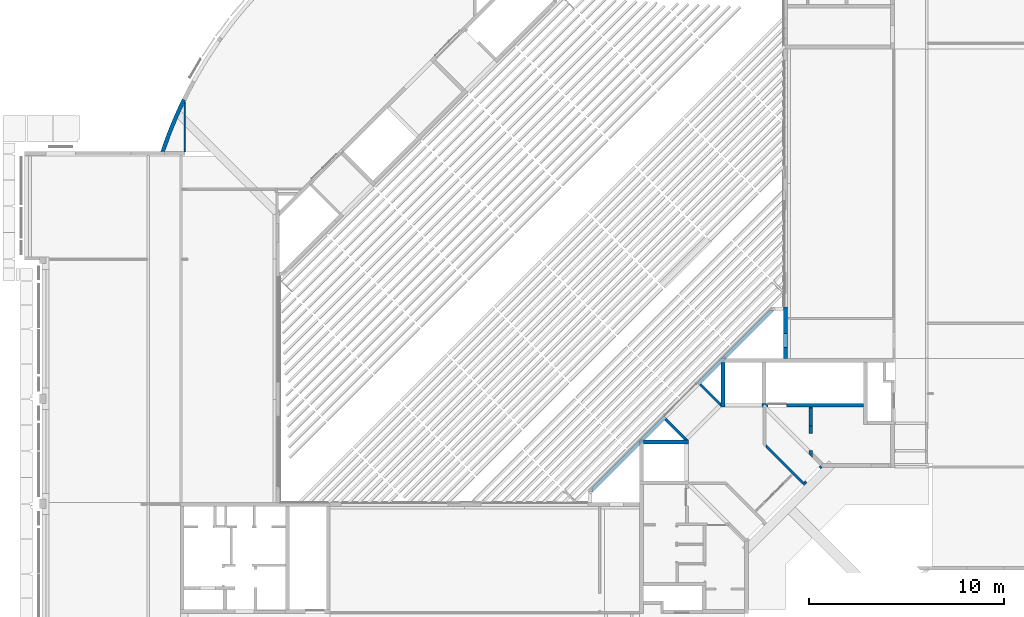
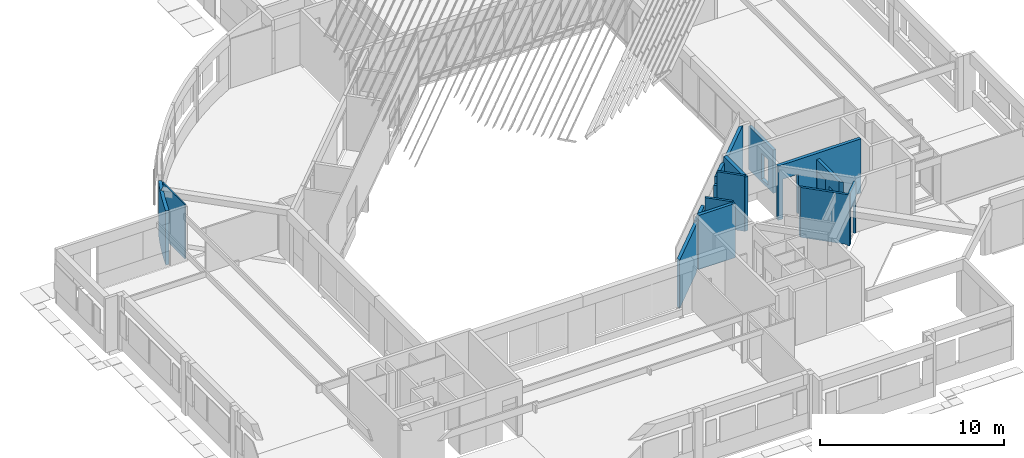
# One storey, part 35 of 37: 13 walls.
"""IFC4X3_ADD2 building model written with IfcOpenShell, lengths in millimetres."""

from ifc_helpers import new_model, si_unit, direction, frame, origin_with_axes, place, context, subcontext, project, spatial, polygons, source, transform, mapped, material, type_object, type_shapes, element, save


model = new_model("IFC4X3_ADD2")

# Units and contexts
model_context = context("Model", 3, precision=1e-05, world=origin_with_axes(), true_north=direction((0.0, 1.0)))
body_context = subcontext(model_context, "Body", "Model", "MODEL_VIEW")
ifc_project = project(units=[si_unit("LENGTHUNIT", "METRE", prefix="MILLI"), si_unit("AREAUNIT", "SQUARE_METRE"), si_unit("VOLUMEUNIT", "CUBIC_METRE"), si_unit("PLANEANGLEUNIT", "RADIAN"), si_unit("TIMEUNIT", "SECOND"), si_unit("MASSUNIT", "GRAM")], contexts=[model_context])

# Site, building, storey
site_placement = place(None, origin_with_axes())
site = spatial("IfcSite", under=ifc_project, at=site_placement, Name="Site", CompositionType="ELEMENT")
building_placement = place(site_placement, origin_with_axes())
building = spatial("IfcBuilding", under=site, at=building_placement, Name="IFC Building Story")
storey_placement = place(building_placement, frame((0.0, 0.0, 3600.0), z_axis=(0.0, 0.0, 1.0), x_axis=(1.0, 0.0, 0.0)))
storey = spatial("IfcBuildingStorey", under=building, at=storey_placement, Name="010", Elevation=3600.0)

# Walls
ifc_material = material(Name="BB_Metselwerk_Betonsteen")
wall_type_1 = type_object("IfcWallType", Name="Basic Wall_BB_03.09.24#03_Wand uit metselwerk_ 190 mm3", PredefinedType="NOTDEFINED")
shared_shape_1 = source(origin_with_axes(), body_context, "Body", "Tessellation", [
    polygons([(1.08286712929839e-12, -95.0, 1.08286712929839e-12), (3393.24750028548, -95.0000000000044, 0.0), (3583.48263930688, -95.0000000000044, 1.08286712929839e-12), (3583.48263930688, -95.0, 120.0), (5436.03384096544, -95.0, 120.0), (5436.03384096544, -95.0000000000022, 450.000000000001), (5436.03384096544, -95.0, 2869.99999997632), (5231.88696207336, -95.0, 2869.99999997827), (5231.88696207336, -95.0, 3320.0), (3866.3253517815, -95.0, 3320.0), (3866.3253517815, -95.0, 3200.00000000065), (3471.06131010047, -95.0000000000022, 3200.00000000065), (1.08286712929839e-12, -95.0, 3200.00000000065), (190.000000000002, 95.0000000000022, 1.08286712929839e-12), (3393.24750028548, 95.0000000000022, 0.0), (3393.48263930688, 95.0, 1.08286712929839e-12), (3676.3253517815, 95.0, 3200.00000000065), (3471.06131010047, 95.0, 3200.00000000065), (189.999999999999, 94.999999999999, 3200.00000000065), (5436.03384096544, 95.0, 120.0), (5436.03384096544, 95.0, 450.0), (5436.03384096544, 94.9999999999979, 2869.99999997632), (5231.88696207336, 94.9999999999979, 2869.99999997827), (5231.88696207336, 94.9999999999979, 3320.0), (3676.3253517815, 95.0, 3320.0), (3393.48263930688, 95.0, 120.0)], [[[11, 12, 8]], [[8, 9, 10]], [[8, 10, 11]], [[12, 4, 6]], [[12, 6, 8]], [[6, 7, 8]], [[4, 5, 6]], [[12, 2, 4]], [[2, 3, 4]], [[12, 13, 1]], [[12, 1, 2]], [[2, 1, 14]], [[2, 14, 15]], [[15, 16, 3]], [[15, 3, 2]], [[12, 11, 17]], [[12, 17, 18]], [[18, 19, 13]], [[18, 13, 12]], [[6, 5, 20]], [[6, 20, 21]], [[21, 22, 7]], [[21, 7, 6]], [[8, 7, 22, 23]], [[9, 8, 23, 24]], [[10, 9, 24, 25]], [[1, 13, 19, 14]], [[11, 10, 25, 17]], [[5, 4, 26, 20]], [[4, 3, 16, 26]], [[23, 22, 21]], [[21, 17, 23]], [[17, 25, 24]], [[17, 24, 23]], [[21, 20, 26]], [[21, 26, 18]], [[21, 18, 17]], [[15, 14, 26]], [[26, 16, 15]], [[14, 19, 18]], [[14, 18, 26]]]),
    polygons([(13080.8455415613, 94.9999999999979, 3200.00000000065), (13080.8455415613, 94.9999999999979, 1.08286712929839e-12), (9780.82239419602, 94.9999999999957, 0.0), (9594.80911031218, 94.9999999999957, 1.08286712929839e-12), (9594.80911031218, 94.9999999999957, 120.0), (7831.88696207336, 95.0, 119.999999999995), (7831.88696207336, 94.9999999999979, 450.0), (7831.88696207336, 95.0, 2869.99999997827), (8028.33713913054, 95.0000000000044, 2869.99999997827), (8028.33713913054, 95.0000000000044, 3320.00000000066), (9311.96639783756, 94.9999999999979, 3320.00000000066), (9311.96639783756, 94.9999999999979, 3200.00000000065), (9790.7976733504, 95.0000000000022, 3200.00000000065), (7831.88696207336, -95.0000000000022, 119.999999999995), (7831.88696207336, -95.0000000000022, 450.000000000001), (7831.88696207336, -95.0000000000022, 2869.99999997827), (13270.8455415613, -95.0000000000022, 1.08286712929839e-12), (9784.80911031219, -95.0000000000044, 1.08286712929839e-12), (9780.82239419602, -91.0132838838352, 0.0), (9501.96639783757, -95.0000000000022, 3200.00000000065), (9790.79767335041, -95.0000000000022, 3200.00000000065), (13270.8455415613, -95.0000000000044, 3200.00000000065), (8028.33713913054, -95.0000000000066, 3320.00000000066), (9501.96639783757, -95.0000000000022, 3320.00000000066), (8028.33713913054, -95.0000000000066, 2869.99999997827), (9784.80911031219, -95.0000000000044, 120.0), (9780.82239419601, -95.0000000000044, 120.0), (9780.82239419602, -91.0132838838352, 120.0)], [[[12, 13, 9]], [[9, 10, 12]], [[10, 11, 12]], [[13, 5, 7]], [[13, 7, 9]], [[7, 8, 9]], [[5, 6, 7]], [[13, 3, 5]], [[3, 4, 5]], [[13, 1, 2]], [[13, 2, 3]], [[15, 16, 8]], [[15, 8, 7]], [[7, 6, 14]], [[7, 14, 15]], [[19, 4, 3]], [[3, 2, 17]], [[3, 17, 18]], [[3, 18, 19]], [[21, 22, 1]], [[21, 1, 13]], [[13, 12, 20]], [[13, 20, 21]], [[23, 24, 11, 10]], [[25, 23, 10, 9]], [[16, 25, 9, 8]], [[22, 17, 2, 1]], [[24, 20, 12, 11]], [[27, 14, 6]], [[27, 6, 5]], [[27, 5, 28]], [[28, 26, 27]], [[28, 5, 4]], [[28, 4, 19]], [[19, 18, 26]], [[19, 26, 28]], [[25, 16, 15]], [[15, 20, 25]], [[20, 24, 23]], [[20, 23, 25]], [[26, 18, 21]], [[21, 27, 26]], [[21, 20, 15]], [[21, 15, 14]], [[21, 14, 27]], [[18, 17, 22]], [[18, 22, 21]]]),
])
type_shapes(wall_type_1, [shared_shape_1])
wall_1_placement = place(storey_placement, frame((-22622.0277793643, 13248.2702696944, -200.0), z_axis=(0.0, 0.0, 1.0), x_axis=(0.7071067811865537, 0.7071067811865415, 0.0)))
element("IfcWall", 1, at=wall_1_placement, inside=storey, type_object=wall_type_1, material=ifc_material, Name="Basic Wall:BB_03.09.24#03_Wand uit metselwerk, 190 mm", ObjectType="Basic Wall:BB_03.09.24#03_Wand uit metselwerk, 190 mm", PredefinedType="SOLIDWALL", context=body_context, shape_type="MappedRepresentation", body=[
    mapped(shared_shape_1, transform((0.0, 0.0, 0.0))),
])
wall_type_2 = type_object("IfcWallType", Name="Basic Wall_BB_10.01.62#01_Voorzetwand gipskarton_MS75 _ 50.25_ 75 mm15", PredefinedType="NOTDEFINED")
shared_shape_2 = source(origin_with_axes(), body_context, "Body", "Tessellation", [
    polygons([(2544.40572328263, 25.000000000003, 0.0), (16.3707426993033, 25.000000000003, 0.0), (0.0, 37.5000000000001, 0.0), (2544.40572328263, 37.5000000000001, 0.0), (0.0, 37.5000000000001, 200.0), (16.3707426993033, 25.000000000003, 200.0), (16.3707426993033, 25.000000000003, 2840.0), (4.33146851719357e-12, 37.5000000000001, 2840.0), (2544.40572328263, 25.000000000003, 200.0), (2544.40572328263, 37.5000000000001, 200.0), (2544.40572328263, 37.5000000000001, 2840.0), (2544.40572328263, 37.5000000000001, 3200.0), (2544.40572328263, 37.5000000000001, 3600.0), (2544.40572328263, 25.000000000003, 3600.0), (2544.40572328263, 25.000000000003, 3200.0), (2544.40572328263, 25.000000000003, 2840.0), (25.842365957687, 25.000000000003, 2840.0), (25.8423659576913, 25.000000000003, 3600.0), (25.842365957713, 24.9999999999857, 3519.1235751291), (25.8423659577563, 24.9999999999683, 3400.0), (25.8423659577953, 24.999999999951, 3280.8764248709), (25.8423659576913, 25.000000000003, 3200.0), (25.8423659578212, 24.9999999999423, 3020.0), (25.8423659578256, 24.9999999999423, 2920.8764248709), (1.42938461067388e-10, 37.4999999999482, 3001.75284974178), (1.51601398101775e-10, 37.4999999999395, 3119.12357512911), (3.0320279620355e-11, 37.5000000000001, 3200.0), (2.38230768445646e-10, 37.4999999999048, 3361.75284974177), (2.12241957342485e-10, 37.4999999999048, 3438.24715025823), (3.0320279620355e-11, 37.5000000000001, 3600.0), (12.9191418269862, 31.2457801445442, 2840.0), (12.9191487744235, 31.245776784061, 3600.0), (12.3589870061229, 31.5167378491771, 3060.43821243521), (12.3283092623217, 31.5315778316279, 2950.16977243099), (12.9191418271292, 31.2457801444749, 3200.0), (12.4661036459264, 31.4649219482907, 3399.99999999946), (10.2204866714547, 32.551351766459, 3299.65014050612), (10.2204869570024, 32.5513516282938, 3500.34986530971)], [[[1, 2, 3, 4]], [[5, 3, 2]], [[5, 2, 6]], [[6, 7, 8]], [[6, 8, 5]], [[9, 1, 4]], [[9, 4, 10]], [[12, 13, 14]], [[12, 14, 15]], [[15, 16, 11]], [[15, 11, 12]], [[16, 9, 10]], [[16, 10, 11]], [[6, 2, 17]], [[17, 7, 6]], [[21, 22, 15]], [[15, 14, 20]], [[15, 20, 21]], [[14, 19, 20]], [[14, 18, 19]], [[24, 17, 16]], [[16, 15, 23]], [[16, 23, 24]], [[15, 22, 23]], [[17, 2, 9]], [[17, 9, 16]], [[2, 1, 9]], [[10, 4, 3]], [[10, 3, 5]], [[29, 30, 13]], [[13, 12, 28]], [[13, 28, 29]], [[12, 27, 28]], [[12, 26, 27]], [[12, 11, 25]], [[12, 25, 26]], [[11, 8, 25]], [[11, 10, 5]], [[11, 5, 8]], [[31, 8, 7, 17]], [[32, 18, 14]], [[32, 14, 13]], [[13, 30, 32]], [[33, 34, 24, 23]], [[33, 35, 26]], [[33, 26, 25]], [[35, 33, 22]], [[31, 17, 24]], [[35, 22, 21]], [[19, 18, 32]], [[33, 23, 22]], [[31, 34, 8]], [[34, 33, 25, 8]], [[35, 27, 26]], [[24, 34, 31]], [[21, 36, 37]], [[20, 19, 36, 21]], [[36, 29, 28]], [[19, 32, 38]], [[27, 35, 37]], [[27, 37, 28]], [[30, 29, 38]], [[36, 28, 37]], [[38, 29, 36]], [[21, 37, 35]], [[19, 38, 36]], [[30, 38, 32]]]),
    polygons([(2544.40572328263, 25.000000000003, 3200.0), (2544.40572328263, 25.000000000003, 2840.0), (2544.40572328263, 25.000000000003, 200.0), (2544.40572328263, 25.000000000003, 0.0), (16.3707426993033, 25.000000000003, 0.0), (16.3707426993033, 25.000000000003, 200.0), (16.3707426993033, 25.000000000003, 2840.0), (25.8423659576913, 25.000000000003, 2840.0), (25.8423659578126, 24.999999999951, 3001.7528497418), (25.8423659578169, 24.9999999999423, 3119.1235751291), (25.8423659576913, 25.000000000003, 3200.0), (25.8423659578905, 24.999999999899, 3361.7528497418), (25.8423659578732, 24.9999999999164, 3438.2471502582), (25.842365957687, 25.000000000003, 3600.0), (2544.40572328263, 25.000000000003, 3600.0), (2544.40572328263, 12.4999999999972, 0.0), (32.7414853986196, 12.4999999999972, 0.0), (32.7414853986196, 12.4999999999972, 200.0), (32.7414853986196, 12.4999999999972, 2840.0), (2544.40572328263, 12.4999999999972, 200.0), (2544.40572328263, 12.4999999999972, 3600.0), (2544.40572328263, 12.4999999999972, 3200.0), (2544.40572328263, 12.4999999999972, 2840.0), (51.7712045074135, 12.4999999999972, 2840.0), (51.7712045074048, 12.4999999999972, 3600.0), (51.7712045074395, 12.4999999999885, 3519.12357512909), (51.7712045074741, 12.4999999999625, 3400.0), (51.7712045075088, 12.4999999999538, 3280.87642487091), (51.7712045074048, 12.4999999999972, 3200.0), (51.7712045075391, 12.4999999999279, 3020.0), (51.7712045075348, 12.4999999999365, 2920.87642487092), (38.8047385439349, 18.7457545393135, 2840.0), (38.8047427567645, 18.7457525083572, 3600.0), (38.2457460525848, 19.0152482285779, 3060.43821243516), (38.1790189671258, 19.0474190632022, 2950.16432496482), (38.8047385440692, 18.7457545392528, 3200.0), (38.3526404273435, 18.9637122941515, 3399.99999999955), (36.0760333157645, 20.0614642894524, 3299.64700237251), (36.0760334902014, 20.0614642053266, 3500.35300118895)], [[[3, 4, 5]], [[3, 5, 6]], [[8, 2, 3]], [[8, 3, 6]], [[6, 7, 8]], [[10, 11, 1]], [[1, 2, 9]], [[1, 9, 10]], [[2, 8, 9]], [[13, 14, 15]], [[15, 1, 12]], [[15, 12, 13]], [[1, 11, 12]], [[16, 17, 5, 4]], [[6, 5, 17]], [[6, 17, 18]], [[18, 19, 7]], [[18, 7, 6]], [[20, 16, 4]], [[20, 4, 3]], [[1, 15, 21]], [[1, 21, 22]], [[22, 23, 2]], [[22, 2, 1]], [[23, 20, 3]], [[23, 3, 2]], [[18, 17, 24]], [[24, 19, 18]], [[28, 29, 22]], [[22, 21, 27]], [[22, 27, 28]], [[21, 26, 27]], [[21, 25, 26]], [[31, 24, 23]], [[23, 22, 30]], [[23, 30, 31]], [[22, 29, 30]], [[24, 17, 20]], [[24, 20, 23]], [[17, 16, 20]], [[32, 8, 7]], [[32, 7, 19]], [[19, 24, 32]], [[33, 25, 21]], [[33, 21, 15]], [[15, 14, 33]], [[34, 35, 30]], [[35, 34, 9]], [[30, 35, 31]], [[34, 36, 10]], [[36, 34, 29]], [[32, 24, 31]], [[36, 29, 28]], [[26, 25, 33]], [[32, 35, 8]], [[36, 11, 10]], [[34, 30, 29]], [[34, 10, 9]], [[8, 35, 9]], [[31, 35, 32]], [[28, 37, 38]], [[27, 26, 37, 28]], [[37, 13, 12]], [[26, 33, 39]], [[11, 36, 38]], [[11, 38, 12]], [[14, 13, 39]], [[37, 12, 38]], [[39, 13, 37]], [[28, 38, 36]], [[26, 39, 37]], [[14, 39, 33]]]),
    polygons([(51.7712045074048, 12.4999999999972, 3200.0), (51.7712045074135, 12.4999999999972, 3600.0), (2544.40572328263, 12.4999999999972, 3600.0), (2544.40572328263, 12.4999999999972, 3200.0), (2544.40572328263, 12.4999999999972, 2840.0), (2544.40572328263, 12.4999999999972, 200.0), (2544.40572328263, 12.4999999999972, 0.0), (32.7414853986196, 12.4999999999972, 0.0), (32.7414853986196, 12.4999999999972, 200.0), (32.7414853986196, 12.4999999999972, 2840.0), (51.7712045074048, 12.4999999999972, 2840.0), (2544.40572328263, -37.5000000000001, 0.0), (98.2244561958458, -37.5000000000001, 0.0), (98.2244561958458, -37.5000000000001, 200.0), (98.2244561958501, -37.5000000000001, 2840.0), (2544.40572328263, -37.5000000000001, 200.0), (2544.40572328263, -37.5000000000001, 3600.0), (2544.40572328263, -37.5000000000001, 3200.0), (2544.40572328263, -37.5000000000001, 2840.0), (156.365593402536, -37.5000000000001, 2840.0), (156.365593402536, -37.5000000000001, 3600.0), (156.365593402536, -37.5000000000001, 3200.0), (104.035426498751, -12.5689746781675, 2840.0), (104.035381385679, -12.5689531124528, 3600.0), (104.035426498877, -12.5689746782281, 3200.0)], [[[1, 2, 3]], [[1, 3, 4]], [[6, 7, 8]], [[6, 8, 9]], [[11, 5, 6]], [[11, 6, 9]], [[9, 10, 11]], [[11, 1, 4]], [[11, 4, 5]], [[12, 13, 8, 7]], [[9, 8, 13]], [[9, 13, 14]], [[14, 15, 10]], [[14, 10, 9]], [[16, 12, 7]], [[16, 7, 6]], [[4, 3, 17]], [[4, 17, 18]], [[18, 19, 5]], [[18, 5, 4]], [[19, 16, 6]], [[19, 6, 5]], [[14, 13, 20]], [[20, 15, 14]], [[18, 17, 21]], [[18, 21, 22]], [[22, 20, 19]], [[22, 19, 18]], [[20, 13, 16]], [[20, 16, 19]], [[13, 12, 16]], [[23, 11, 10]], [[23, 10, 15]], [[15, 20, 23]], [[24, 21, 17]], [[24, 17, 3]], [[3, 2, 24]], [[22, 21, 24]], [[22, 24, 25]], [[25, 23, 20]], [[25, 20, 22]], [[25, 24, 2]], [[25, 2, 1]], [[1, 11, 23]], [[1, 23, 25]]]),
])
type_shapes(wall_type_2, [shared_shape_2])
wall_2_placement = place(storey_placement, frame((-43472.5, 33269.4057232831, -200.0), z_axis=(0.0, 0.0, 1.0), x_axis=(0.0, -1.0, 0.0)))
element("IfcWall", 2, at=wall_2_placement, inside=storey, type_object=wall_type_2, Name="Basic Wall:BB_10.01.62#01_Voorzetwand gipskarton_MS75 / 50.25, 75 mm", ObjectType="Basic Wall:BB_10.01.62#01_Voorzetwand gipskarton_MS75 / 50.25, 75 mm", PredefinedType="PARTITIONING", context=body_context, shape_type="MappedRepresentation", body=[
    mapped(shared_shape_2, transform((0.0, 0.0, 0.0))),
])
wall_3_placement = place(storey_placement, frame((0.0, 0.0, -3600.0), z_axis=(0.0, 0.0, 1.0), x_axis=(1.0, 0.0, 0.0)))
element("IfcWall", 3, at=wall_3_placement, inside=storey, Name="Basic Wall:BB_XX_Wand uit beton, 200 mm", ObjectType="Basic Wall:BB_XX_Wand uit beton, 200 mm", PredefinedType="SOLIDWALL", context=body_context, shape_type="Tessellation", body=[
    polygons([(-43812.08873095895, 32998.53162279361, 7000.0), (-44012.44364286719, 32552.0015506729, 7000.0), (-44202.90630176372, 32101.16325194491, 7000.0), (-44383.38413856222, 31646.23584404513, 7000.0), (-44553.78943702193, 31187.44043180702, 7000.0), (-44714.03937637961, 30725.00000000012, 7000.0), (-44503.05686345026, 30724.99999999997, 7000.0), (-44352.80473169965, 31155.28310208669, 7000.0), (-44193.67148300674, 31582.36106278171, 7000.0), (-44025.72533828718, 32006.05082458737, 7000.0), (-43849.03840438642, 32426.17049378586, 7000.0), (-43960.38058231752, 32537.51267171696, 7000.0), (-43677.5378698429, 32820.35538419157, 7000.0), (-43674.98745384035, 32817.80496818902, 7000.0), (-43550.4305043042, 33086.08283792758, 7000.0), (-43422.27232708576, 33352.67344269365, 7000.0), (-43601.93894298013, 33440.53644476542, 7000.0), (-43960.38058231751, 32537.51267171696, 6600.0), (-43849.03840438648, 32426.17049378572, 6600.0), (-43827.63899984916, 32475.44856639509, 6600.0), (-43806.11976950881, 32524.67321514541, 6600.0), (-43765.0155713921, 32617.79972285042, 6600.0), (-43723.48094906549, 32710.73497155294, 6600.0), (-43699.30594726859, 32764.30182571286, 6600.0), (-43674.98745384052, 32817.80496818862, 6600.0), (-43677.53786984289, 32820.35538419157, 6600.0), (-44503.05686345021, 30725.00000000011, 3400.0), (-44714.03937637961, 30725.00000000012, 3400.0), (-44553.78943702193, 31187.440431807, 3400.0), (-44383.38413856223, 31646.23584404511, 3400.0), (-44202.90630176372, 32101.16325194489, 3400.0), (-44012.44364286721, 32552.00155067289, 3400.0), (-43812.08873095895, 32998.53162279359, 3400.0), (-43601.93894298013, 33440.53644476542, 3400.0), (-43592.09195014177, 33435.72093495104, 3400.0), (-43422.27232708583, 33352.67344269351, 3400.0), (-43575.46496801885, 33032.91392388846, 3400.0), (-43723.48082110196, 32710.73498552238, 3400.0), (-43765.01623290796, 32617.79823344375, 3400.0), (-43806.12062060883, 32524.67125401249, 3400.0), (-43958.10008296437, 32169.74096378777, 3400.0), (-44103.82706850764, 31812.19888752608, 3400.0), (-44243.25685295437, 31452.15485999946, 3400.0), (-44376.34646561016, 31089.71991405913, 3400.0), (-44503.05686345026, 30724.99999999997, 4440.0), (-43422.27232708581, 33352.67344269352, 4440.0), (-43601.93894298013, 33440.53644476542, 3600.0), (-43601.93894298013, 33440.53644476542, 4440.0), (-44714.03937637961, 30725.00000000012, 4440.0), (-44714.03937637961, 30725.00000000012, 6280.0)], [[[5, 6, 7]], [[5, 7, 8]], [[8, 9, 4]], [[8, 4, 5]], [[9, 10, 3]], [[9, 3, 4]], [[10, 11, 12]], [[10, 12, 2]], [[10, 2, 3]], [[13, 14, 1]], [[1, 2, 12]], [[1, 12, 13]], [[15, 16, 17]], [[15, 17, 1]], [[1, 14, 15]], [[24, 25, 26]], [[26, 23, 24]], [[23, 26, 18]], [[18, 22, 23]], [[18, 21, 22]], [[18, 20, 21]], [[18, 19, 20]], [[35, 36, 37]], [[37, 33, 34]], [[37, 34, 35]], [[39, 40, 32]], [[32, 33, 38]], [[32, 38, 39]], [[33, 37, 38]], [[40, 41, 31]], [[40, 31, 32]], [[42, 43, 30]], [[42, 30, 31]], [[31, 41, 42]], [[43, 44, 29]], [[43, 29, 30]], [[44, 27, 28]], [[44, 28, 29]], [[9, 8, 45]], [[8, 7, 45]], [[19, 11, 10]], [[42, 10, 9]], [[42, 19, 10]], [[27, 44, 45]], [[43, 45, 44]], [[43, 42, 9]], [[9, 45, 43]], [[41, 19, 42]], [[40, 20, 19]], [[19, 41, 40]], [[38, 23, 22]], [[39, 22, 21, 40]], [[16, 15, 46]], [[25, 15, 14]], [[38, 24, 23]], [[39, 38, 22]], [[38, 37, 46]], [[15, 25, 46]], [[46, 37, 36]], [[46, 24, 38]], [[25, 24, 46]], [[20, 40, 21]], [[47, 48, 35]], [[35, 34, 47]], [[48, 46, 36]], [[48, 36, 35]], [[48, 17, 16]], [[48, 16, 46]], [[47, 34, 33]], [[48, 47, 33]], [[33, 1, 17]], [[33, 17, 48]], [[2, 1, 33, 32]], [[32, 31, 3, 2]], [[4, 3, 31, 30]], [[5, 4, 30, 29]], [[50, 6, 5]], [[5, 29, 49]], [[5, 49, 50]], [[29, 28, 49]], [[13, 12, 18, 26]], [[12, 11, 19, 18]], [[13, 26, 25, 14]], [[49, 28, 27]], [[49, 27, 45]], [[50, 49, 45]], [[50, 45, 7]], [[7, 6, 50]]]),
])
wall_4_placement = place(storey_placement, frame((0.0, 0.0, -3600.0), z_axis=(0.0, 0.0, 1.0), x_axis=(1.0, 0.0, 0.0)))
element("IfcWall", 4, at=wall_4_placement, inside=storey, Name="Basic Wall:BB_XX_Wand uit beton, 200 mm", ObjectType="Basic Wall:BB_XX_Wand uit beton, 200 mm", PredefinedType="SOLIDWALL", context=body_context, shape_type="Tessellation", body=[
    polygons([(-15715.0, 17600.0, 7120.0), (-15715.0, 17600.0, 3520.0), (-15715.0, 19899.99999999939, 3520.0), (-15715.0, 19899.99999999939, 7120.0), (-15915.0, 17600.0, 3520.0), (-15915.0, 17600.0, 7120.0), (-15915.0, 17611.65132799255, 7120.0), (-15915.0, 17809.64122672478, 7120.0), (-15915.0, 19899.99999999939, 7120.0), (-15915.0, 19899.99999999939, 3520.0), (-15915.0, 17809.64122672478, 3520.0), (-15915.0, 17611.65132799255, 3520.0)], [[[1, 2, 3, 4]], [[8, 9, 10]], [[8, 10, 11]], [[11, 12, 7]], [[11, 7, 8]], [[12, 5, 6]], [[12, 6, 7]], [[11, 10, 3]], [[11, 3, 2]], [[2, 12, 11]], [[2, 5, 12]], [[7, 6, 1]], [[1, 8, 7]], [[1, 4, 9]], [[1, 9, 8]], [[2, 1, 6, 5]], [[4, 3, 10, 9]]]),
])
wall_5_placement = place(storey_placement, frame((0.0, 0.0, -3600.0), z_axis=(0.0, 0.0, 1.0), x_axis=(1.0, 0.0, 0.0)))
element("IfcWall", 5, at=wall_5_placement, inside=storey, Name="Basic Wall:BB_XX_Wand uit beton, 200 mm", ObjectType="Basic Wall:BB_XX_Wand uit beton, 200 mm", PredefinedType="SOLIDWALL", context=body_context, shape_type="Tessellation", body=[
    polygons([(-8600.000000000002, 17800.0, 3520.0), (-12554.99999999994, 17800.0, 3520.0), (-12554.99999999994, 17800.0, 6150.0), (-13514.99999999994, 17800.0, 6150.0), (-13514.99999999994, 17800.0, 3520.0), (-13614.99999999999, 17800.0, 3520.0), (-13814.99999999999, 17800.0, 3520.0), (-13814.99999999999, 17800.0, 7120.0), (-13614.99999999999, 17800.0, 7120.0), (-8600.000000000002, 17800.0, 7120.0), (-8600.000000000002, 17600.0, 3520.0), (-8600.000000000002, 17600.0, 7120.0), (-13814.99999999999, 17600.0, 7120.0), (-13814.99999999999, 17600.0, 3520.0), (-13514.99999999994, 17600.0, 3520.0), (-13514.99999999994, 17600.0, 6150.0), (-12554.99999999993, 17600.0, 6150.0), (-12554.99999999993, 17600.0, 3520.0), (-11399.99999999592, 17600.0, 3520.0), (-11209.99999999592, 17600.0, 3520.0)], [[[6, 7, 8]], [[6, 8, 4]], [[4, 5, 6]], [[8, 9, 3]], [[8, 3, 4]], [[3, 9, 10]], [[10, 1, 2]], [[10, 2, 3]], [[20, 11, 12]], [[20, 12, 17]], [[17, 19, 20]], [[17, 18, 19]], [[12, 13, 17]], [[13, 16, 17]], [[13, 14, 15]], [[13, 15, 16]], [[1, 10, 12, 11]], [[19, 18, 2]], [[2, 20, 19]], [[2, 1, 11]], [[2, 11, 20]], [[9, 8, 13]], [[13, 12, 10]], [[13, 10, 9]], [[3, 2, 18, 17]], [[4, 3, 17, 16]], [[5, 4, 16, 15]], [[6, 5, 15]], [[15, 14, 7]], [[15, 7, 6]], [[8, 7, 14, 13]]]),
])
wall_6_placement = place(storey_placement, frame((0.0, 0.0, -3600.0), z_axis=(0.0, 0.0, 1.0), x_axis=(1.0, 0.0, 0.0)))
element("IfcWall", 6, at=wall_6_placement, inside=storey, Name="Basic Wall:BB_XX_Wand uit beton, 200 mm", ObjectType="Basic Wall:BB_XX_Wand uit beton, 200 mm", PredefinedType="SOLIDWALL", context=body_context, shape_type="Tessellation", body=[
    polygons([(-17600.00000000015, 15715.0, 3520.0), (-17600.00000000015, 15715.0, 7120.0), (-19900.0, 15715.0, 7120.0), (-19900.0, 15715.0, 3520.0), (-17600.00000000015, 15915.0, 7120.0), (-17600.00000000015, 15915.0, 3520.0), (-17611.6513279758, 15915.0, 3520.0), (-17809.64122670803, 15915.0, 3520.0), (-19900.0, 15915.0, 3520.0), (-19900.0, 15915.0, 7120.0), (-17809.64122670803, 15915.0, 7120.0), (-17611.6513279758, 15915.0, 7120.0)], [[[1, 2, 3, 4]], [[8, 9, 10]], [[8, 10, 11]], [[11, 12, 7]], [[11, 7, 8]], [[12, 5, 6]], [[12, 6, 7]], [[7, 6, 1]], [[1, 8, 7]], [[1, 4, 9]], [[1, 9, 8]], [[2, 1, 6, 5]], [[11, 10, 3]], [[11, 3, 2]], [[2, 12, 11]], [[2, 5, 12]], [[4, 3, 10, 9]]]),
])
wall_7_placement = place(storey_placement, frame((0.0, 0.0, -3600.0), z_axis=(0.0, 0.0, 1.0), x_axis=(1.0, 0.0, 0.0)))
element("IfcWall", 7, at=wall_7_placement, inside=storey, Name="Basic Wall:BB_XX_Wand uit beton, 190 mm", ObjectType="Basic Wall:BB_XX_Wand uit beton, 190 mm", PredefinedType="SOLIDWALL", context=body_context, shape_type="Tessellation", body=[
    polygons([(-12505.0040658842, 20100.0, 3400.0), (-12505.0040658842, 22755.00000000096, 3400.0), (-12505.0040658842, 22755.00000000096, 6280.0), (-12505.0040658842, 20100.0, 6280.0), (-12505.0040658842, 21375.63375030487, 5300.0), (-12505.0040658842, 21375.63375030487, 3599.999999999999), (-12505.0040658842, 20675.63375030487, 3599.999999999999), (-12505.0040658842, 20675.63375030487, 5300.0), (-12695.0040658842, 20100.0, 3400.0), (-12695.0040658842, 20100.0, 6280.0), (-12695.0040658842, 22755.00000000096, 6280.0), (-12695.0040658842, 22755.00000000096, 3400.0), (-12695.0040658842, 21375.63375030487, 5300.0), (-12695.0040658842, 20675.63375030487, 5300.0), (-12695.0040658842, 20675.63375030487, 3599.999999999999), (-12695.0040658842, 21375.63375030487, 3599.999999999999)], [[[8, 5, 4]], [[4, 1, 7]], [[4, 7, 8]], [[1, 6, 7]], [[6, 1, 2]], [[2, 3, 5]], [[2, 5, 6]], [[3, 4, 5]], [[13, 10, 11]], [[11, 12, 16]], [[11, 16, 13]], [[12, 9, 16]], [[9, 15, 16]], [[9, 10, 14]], [[9, 14, 15]], [[10, 13, 14]], [[2, 1, 9, 12]], [[3, 2, 12, 11]], [[4, 3, 11, 10]], [[1, 4, 10, 9]], [[6, 5, 13, 16]], [[7, 6, 16, 15]], [[8, 7, 15, 14]], [[5, 8, 14, 13]]]),
])
wall_8_placement = place(storey_placement, frame((0.0, 0.0, -3600.0), z_axis=(0.0, 0.0, 1.0), x_axis=(1.0, 0.0, 0.0)))
element("IfcWall", 8, at=wall_8_placement, inside=storey, Name="Basic Wall:BB_XX_Wand uit metselwerk, 190 mm", ObjectType="Basic Wall:BB_XX_Wand uit metselwerk, 190 mm", PredefinedType="SOLIDWALL", context=body_context, shape_type="Tessellation", body=[
    polygons([(-11210.0, 14993.9949493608, 6720.0), (-11210.0, 14993.9949493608, 3520.0), (-11210.0, 15191.98484809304, 3520.0), (-11210.0, 15361.98484809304, 3520.0), (-11210.0, 15361.98484809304, 5750.0), (-11210.0, 16251.98484809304, 5750.0), (-11210.0, 16251.98484809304, 3520.0), (-11210.0, 16629.99999999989, 3520.0), (-11210.0, 16629.99999999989, 5970.0), (-11210.0, 17549.99999999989, 5970.0), (-11210.0, 17549.99999999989, 3520.0), (-11210.0, 17599.99999999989, 3520.0), (-11210.0, 17599.99999999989, 6720.0), (-11210.0, 15191.98484809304, 6720.0), (-11400.0, 15183.9949493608, 3520.0), (-11400.0, 15183.9949493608, 6720.0), (-11400.0, 17599.99999999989, 6720.0), (-11400.0, 17599.99999999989, 3520.0), (-11400.0, 17549.99999999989, 3520.0), (-11400.0, 17549.99999999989, 5970.0), (-11400.0, 16629.99999999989, 5970.0), (-11400.0, 16629.99999999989, 3520.0), (-11400.0, 16251.98484809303, 3520.0), (-11400.0, 16251.98484809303, 5750.0), (-11400.0, 15361.98484809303, 5750.0), (-11400.0, 15361.98484809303, 3520.0)], [[[10, 11, 12]], [[12, 13, 10]], [[13, 9, 10]], [[13, 6, 9]], [[6, 7, 8]], [[6, 8, 9]], [[13, 14, 6]], [[14, 5, 6]], [[14, 3, 4]], [[14, 4, 5]], [[14, 1, 2]], [[14, 2, 3]], [[25, 26, 15]], [[25, 15, 16]], [[16, 21, 24]], [[16, 24, 25]], [[21, 22, 23]], [[21, 23, 24]], [[16, 17, 21]], [[17, 20, 21]], [[20, 17, 18]], [[18, 19, 20]], [[3, 2, 15]], [[15, 26, 4]], [[15, 4, 3]], [[14, 13, 17]], [[14, 17, 16]], [[16, 1, 14]], [[9, 8, 22, 21]], [[10, 9, 21, 20]], [[11, 10, 20, 19]], [[12, 11, 19, 18]], [[5, 4, 26, 25]], [[6, 5, 25, 24]], [[7, 6, 24, 23]], [[8, 7, 23, 22]], [[13, 12, 18, 17]], [[1, 16, 15, 2]]]),
])
wall_9_placement = place(storey_placement, frame((0.0, 0.0, -3600.0), z_axis=(0.0, 0.0, 1.0), x_axis=(1.0, 0.0, 0.0)))
element("IfcWall", 9, at=wall_9_placement, inside=storey, Name="Basic Wall:BB_03.09.24#02_Wand uit metselwerk_EI60_43dB, 140 mm", ObjectType="Basic Wall:BB_03.09.24#02_Wand uit metselwerk_EI60_43dB, 140 mm", PredefinedType="SOLIDWALL", context=body_context, shape_type="Tessellation", body=[
    polygons([(-16920.46543486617, 18815.1066615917, 3520.0), (-16920.46543486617, 18815.1066615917, 7200.0), (-15816.00505063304, 17710.64627735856, 7200.0), (-15816.00505063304, 17710.64627735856, 7120.0), (-15914.99999999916, 17809.64122672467, 7120.0), (-15914.99999999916, 17809.64122672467, 3520.0), (-17019.46038423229, 18716.11171222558, 3520.0), (-15914.99999999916, 17611.65132799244, 3520.0), (-15914.99999999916, 17611.65132799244, 7120.0), (-15914.99999999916, 17611.65132799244, 7200.0), (-17019.46038423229, 18716.11171222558, 7200.0)], [[[5, 6, 1]], [[5, 1, 2]], [[2, 3, 5]], [[3, 4, 5]], [[9, 10, 11]], [[11, 7, 8]], [[11, 8, 9]], [[8, 7, 1, 6]], [[2, 1, 7, 11]], [[3, 2, 11, 10]], [[3, 10, 9, 4]], [[5, 9, 8, 6]], [[9, 5, 4]]]),
])
wall_10_placement = place(storey_placement, frame((0.0, 0.0, -3600.0), z_axis=(0.0, 0.0, 1.0), x_axis=(1.0, 0.0, 0.0)))
element("IfcWall", 10, at=wall_10_placement, inside=storey, Name="Basic Wall:BB_03.09.24#02_Wand uit metselwerk_EI60_43dB, 140 mm", ObjectType="Basic Wall:BB_03.09.24#02_Wand uit metselwerk_EI60_43dB, 140 mm", PredefinedType="SOLIDWALL", context=body_context, shape_type="Tessellation", body=[
    polygons([(-17611.65132797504, 15914.99999999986, 3520.0), (-18716.44138119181, 17019.79005321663, 3520.0), (-18716.44138119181, 17019.79005321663, 7200.0), (-17611.65132797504, 15914.99999999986, 7200.0), (-17611.65132797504, 15914.99999999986, 7120.0), (-18815.43633055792, 16920.79510385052, 7200.0), (-18815.43633055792, 16920.79510385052, 3520.0), (-17809.64122670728, 15914.99999999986, 3520.0), (-17809.64122670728, 15914.99999999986, 7120.0), (-17710.64627734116, 15816.00505063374, 7120.0), (-17710.64627734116, 15816.00505063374, 7200.0)], [[[5, 1, 2]], [[5, 2, 3]], [[3, 4, 5]], [[9, 10, 11]], [[9, 11, 6]], [[6, 7, 8]], [[6, 8, 9]], [[2, 1, 8, 7]], [[3, 2, 7, 6]], [[4, 3, 6, 11]], [[4, 11, 10, 5]], [[5, 9, 8, 1]], [[9, 5, 10]]]),
])
wall_11_placement = place(storey_placement, frame((0.0, 0.0, -3600.0), z_axis=(0.0, 0.0, 1.0), x_axis=(1.0, 0.0, 0.0)))
element("IfcWall", 11, at=wall_11_placement, inside=storey, Name="Basic Wall:BB_03.09.24#02_Wand uit metselwerk_EI60_43dB, 140 mm", ObjectType="Basic Wall:BB_03.09.24#02_Wand uit metselwerk_EI60_43dB, 140 mm", PredefinedType="SOLIDWALL", context=body_context, shape_type="Tessellation", body=[
    polygons([(-11660.28227865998, 13555.32845224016, 6910.0), (-13614.99999999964, 15510.04617357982, 6910.0), (-13614.99999999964, 15510.04617357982, 3590.0), (-11758.97186257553, 13654.01803615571, 3590.0), (-11758.97186257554, 13654.01803615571, 3520.0), (-11660.28227865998, 13555.32845224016, 3520.0), (-13614.99999999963, 15708.03607231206, 6910.0), (-11660.28227865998, 13753.31835097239, 6910.0), (-11561.28732929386, 13654.32340160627, 6910.0), (-11561.28732929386, 13654.32340160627, 3520.0), (-11659.97691320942, 13753.01298552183, 3520.0), (-11659.97691320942, 13753.01298552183, 3590.0), (-13614.99999999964, 15708.03607231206, 3590.0)], [[[4, 5, 6]], [[4, 6, 1]], [[1, 2, 3]], [[1, 3, 4]], [[12, 8, 9]], [[12, 9, 10]], [[10, 11, 12]], [[12, 13, 7]], [[12, 7, 8]], [[10, 6, 5, 11]], [[8, 7, 2]], [[8, 2, 1]], [[1, 9, 8]], [[2, 7, 13, 3]], [[1, 6, 10, 9]], [[12, 4, 3, 13]], [[4, 12, 11, 5]]]),
])
wall_12_placement = place(storey_placement, frame((0.0, 0.0, -3600.0), z_axis=(0.0, 0.0, 1.0), x_axis=(1.0, 0.0, 0.0)))
element("IfcWall", 12, at=wall_12_placement, inside=storey, Name="Basic Wall:BB_03.09.24#05_Wand uit metselwerk_EI60, 190 mm", ObjectType="Basic Wall:BB_03.09.24#05_Wand uit metselwerk_EI60, 190 mm", PredefinedType="SOLIDWALL", context=body_context, shape_type="Tessellation", body=[
    polygons([(-11210.0, 17550.0, 5970.0), (-11210.0, 16630.0, 5970.0), (-11210.0, 16630.0, 3590.0), (-11210.0, 16630.0, 3520.0), (-11210.0, 16645.0, 3520.0), (-11210.0, 16645.0, 3590.0), (-11210.0, 17550.0, 3590.0), (-11400.0, 16630.0, 5970.0), (-11400.0, 17550.0, 5970.0), (-11400.0, 17550.0, 3590.0), (-11400.0, 16645.0, 3590.0), (-11400.0, 16645.0, 3520.0), (-11400.0, 16630.0, 3520.0)], [[[3, 4, 5]], [[3, 5, 6]], [[6, 7, 1]], [[6, 1, 2]], [[2, 3, 6]], [[11, 12, 13]], [[11, 13, 8]], [[8, 9, 10]], [[8, 10, 11]], [[4, 13, 12, 5]], [[9, 1, 7, 10]], [[2, 1, 9, 8]], [[3, 2, 8]], [[3, 8, 13]], [[13, 4, 3]], [[6, 11, 10, 7]], [[11, 6, 5, 12]]]),
])
wall_13_placement = place(storey_placement, frame((0.0, 0.0, -3600.0), z_axis=(0.0, 0.0, 1.0), x_axis=(1.0, 0.0, 0.0)))
element("IfcWall", 13, at=wall_13_placement, inside=storey, Name="Basic Wall:BB_03.09.24#02_Wand uit metselwerk_EI60_43dB, 140 mm", ObjectType="Basic Wall:BB_03.09.24#02_Wand uit metselwerk_EI60_43dB, 140 mm", PredefinedType="SOLIDWALL", context=body_context, shape_type="Tessellation", body=[
    polygons([(-11660.28227865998, 13753.31835097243, 6910.0), (-10815.28967514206, 14598.31095449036, 6910.0), (-10815.28967514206, 14598.31095449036, 3520.0), (-10889.53588716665, 14524.06474246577, 3520.0), (-10889.53588716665, 14524.06474246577, 5760.0), (-11589.57160054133, 13824.02902909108, 5760.0), (-11589.57160054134, 13824.02902909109, 3520.0), (-11660.28227865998, 13753.31835097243, 3520.0), (-10716.29472577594, 14499.31600512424, 6910.0), (-11561.28732929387, 13654.32340160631, 6910.0), (-11561.28732929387, 13654.32340160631, 3520.0), (-11490.57665117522, 13725.03407972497, 3520.0), (-11490.57665117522, 13725.03407972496, 5760.0), (-10790.54093780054, 14425.06979309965, 5760.0), (-10790.54093780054, 14425.06979309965, 3520.0), (-10716.29472577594, 14499.31600512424, 3520.0), (-11659.97691320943, 13753.01298552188, 3520.0)], [[[6, 7, 8]], [[8, 1, 6]], [[1, 2, 5]], [[1, 5, 6]], [[5, 2, 3]], [[3, 4, 5]], [[14, 15, 16]], [[16, 9, 14]], [[9, 10, 13]], [[9, 13, 14]], [[13, 10, 11]], [[11, 12, 13]], [[13, 6, 5, 14]], [[14, 5, 4, 15]], [[6, 13, 12, 7]], [[3, 16, 15, 4]], [[2, 1, 10, 9]], [[3, 2, 9, 16]], [[17, 11, 10]], [[17, 10, 1]], [[1, 8, 17]], [[17, 8, 7]], [[7, 12, 11]], [[7, 11, 17]]]),
])

save(model, "model.ifc")
